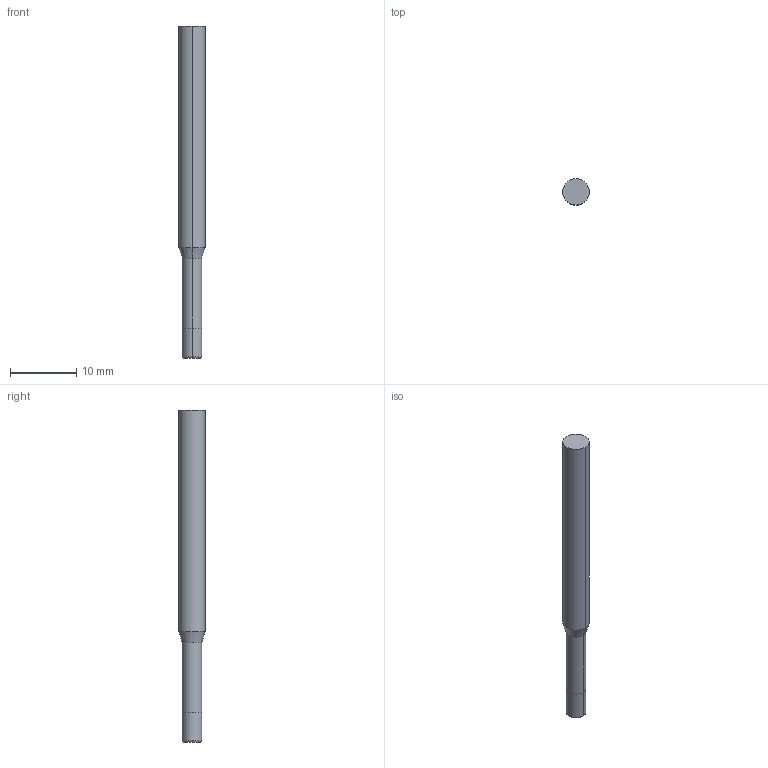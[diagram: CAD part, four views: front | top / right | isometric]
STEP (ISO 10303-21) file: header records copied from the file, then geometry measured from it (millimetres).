
FILE_DESCRIPTION((' '),'2;1');
FILE_NAME( '3MVSM0300R.20N5AH.stp', '2026-01-21T19:28:08', (' '), ('--- Datakit www.datakit.com---'), ' Datakit CrossCadWare V2025.4 Sep 19 2025', 'Mastercam 2027', ' ');
FILE_SCHEMA(('AUTOMOTIVE_DESIGN { 1 0 10303 214 1 1 1 1 }'));
Length unit declared in the file: inch
Products named in the file (1): 3MVSM0300R
Bounding box: 4 x 4 x 50 mm (x, y, z)
Volume: 541.1 mm3; surface area: 598.3 mm2
Topology: 1 solids, 1 shells, 12 faces, 22 edges, 12 vertices
Faces by surface type: cylinder 6, plane 2, torus 2, cone 2
Entity records: 377 total; most frequent: DIRECTION 70, CARTESIAN_POINT 51, ORIENTED_EDGE 44, AXIS2_PLACEMENT_3D 31, EDGE_CURVE 22, CIRCLE 14, VERTEX_POINT 12, EDGE_LOOP 12
